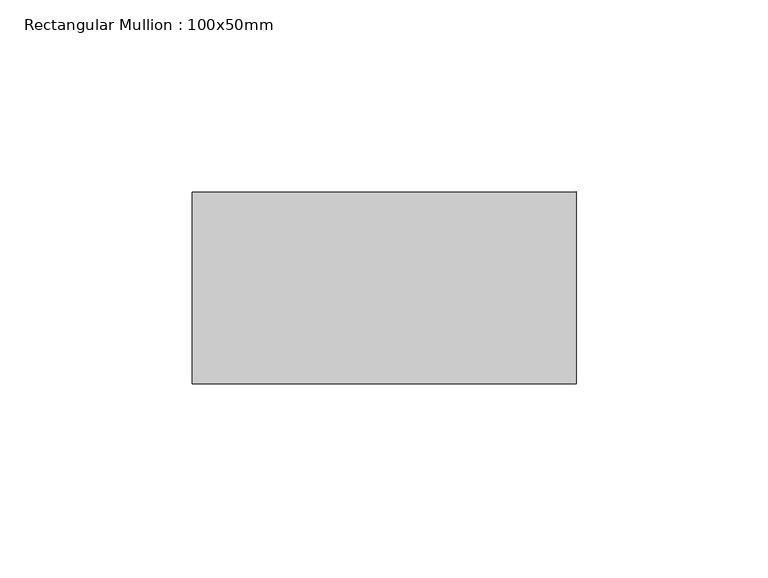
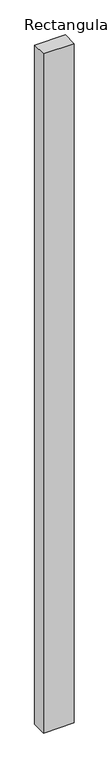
"""IFC4 building model written with IfcOpenShell, lengths in millimetres: member geometry, Rectangular Mullion : 100x50mm."""

from ifc_helpers import new_model, si_unit, frame, origin, place, context, project, spatial, polyline, outline, extrude, source, transform, mapped, element, save


def rectangular_mullion_100x50mm_80827417(model_context):
    return source(origin(), model_context, "Body", "SweptSolid", [
        extrude(outline(polyline([(0.0, 25.0), (0.0, -25.0), (-100.0, -25.0), (-100.0, 25.0), (0.0, 25.0)])), frame((0.0, 0.0, -2344.915903), z_axis=(0.0, 0.0, 1.0), x_axis=(1.0, 0.0, 0.0)), (0.0, 0.0, 1.0), 2344.915903),
    ])


if __name__ == "__main__":
    model = new_model("IFC4")
    model_context = context("Model", 3, world=origin())
    ifc_project = project(units=[si_unit("LENGTHUNIT", "METRE", prefix="MILLI")], contexts=[model_context])
    site = spatial("IfcSite", under=ifc_project)
    building = spatial("IfcBuilding", under=site)
    placement = place(None, origin())
    rectangular_mullion_100x50mm_shape = rectangular_mullion_100x50mm_80827417(model_context)
    element("IfcMember", 1, ObjectType="Rectangular Mullion : 100x50mm", at=placement, inside=building, context=model_context, shape_type="MappedRepresentation", body=[
        mapped(rectangular_mullion_100x50mm_shape, transform((0.0, 0.0, 0.0), x_axis=(1.0, 0.0, 0.0), y_axis=(0.0, 1.0, 0.0), z_axis=(0.0, 0.0, 1.0))),
    ])
    save(model, "model.ifc")
